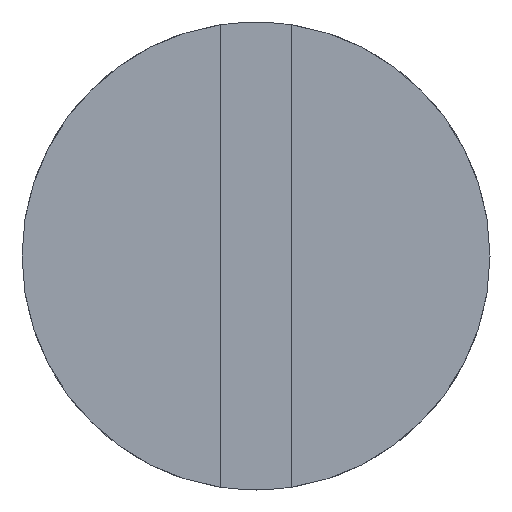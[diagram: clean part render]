
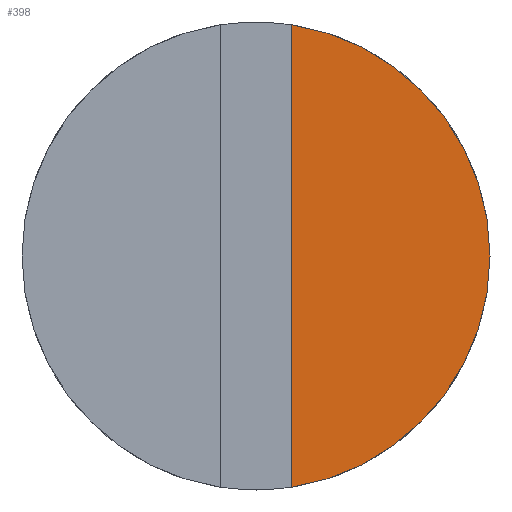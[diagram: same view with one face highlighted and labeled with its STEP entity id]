
A CAD part, left-side view. The second image highlights one B-rep face of the part: STEP entity #398.
In plain terms, the highlighted planar face has unit normal (-1, 0, 0).
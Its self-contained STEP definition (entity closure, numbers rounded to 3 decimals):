
#120=DIRECTION('',(0.,0.,-1.));
#121=VECTOR('',#120,7.909);
#122=CARTESIAN_POINT('',(0.,-0.6,3.955));
#123=LINE('',#122,#121);
#124=CARTESIAN_POINT('',(0.,0.,0.));
#125=DIRECTION('',(1.,0.,0.));
#126=DIRECTION('',(0.,-0.15,0.989));
#127=AXIS2_PLACEMENT_3D('',#124,#125,#126);
#129=CARTESIAN_POINT('',(0.,0.,0.));
#130=DIRECTION('',(-1.,0.,0.));
#131=DIRECTION('',(0.,-0.15,-0.989));
#132=AXIS2_PLACEMENT_3D('',#129,#130,#131);
#171=CARTESIAN_POINT('',(0.,-4.,0.));
#173=VERTEX_POINT('',#171);
#174=CARTESIAN_POINT('',(0.,-0.6,3.955));
#176=VERTEX_POINT('',#174);
#182=CARTESIAN_POINT('',(0.,-0.6,-3.955));
#183=VERTEX_POINT('',#182);
#388=CARTESIAN_POINT('',(0.,0.,0.));
#389=DIRECTION('',(1.,0.,0.));
#390=DIRECTION('',(0.,-1.,0.));
#391=AXIS2_PLACEMENT_3D('',#388,#389,#390);
#392=PLANE('',#391);
#393=ORIENTED_EDGE('',*,*,#334,.F.);
#394=ORIENTED_EDGE('',*,*,#357,.T.);
#395=ORIENTED_EDGE('',*,*,#311,.F.);
#396=EDGE_LOOP('',(#393,#394,#395));
#397=FACE_OUTER_BOUND('',#396,.F.);
#398=ADVANCED_FACE('',(#397),#392,.F.);
#128=CIRCLE('',#127,4.);
#133=CIRCLE('',#132,4.);
#311=EDGE_CURVE('',#183,#173,#133,.T.);
#334=EDGE_CURVE('',#176,#183,#123,.T.);
#357=EDGE_CURVE('',#176,#173,#128,.T.);
